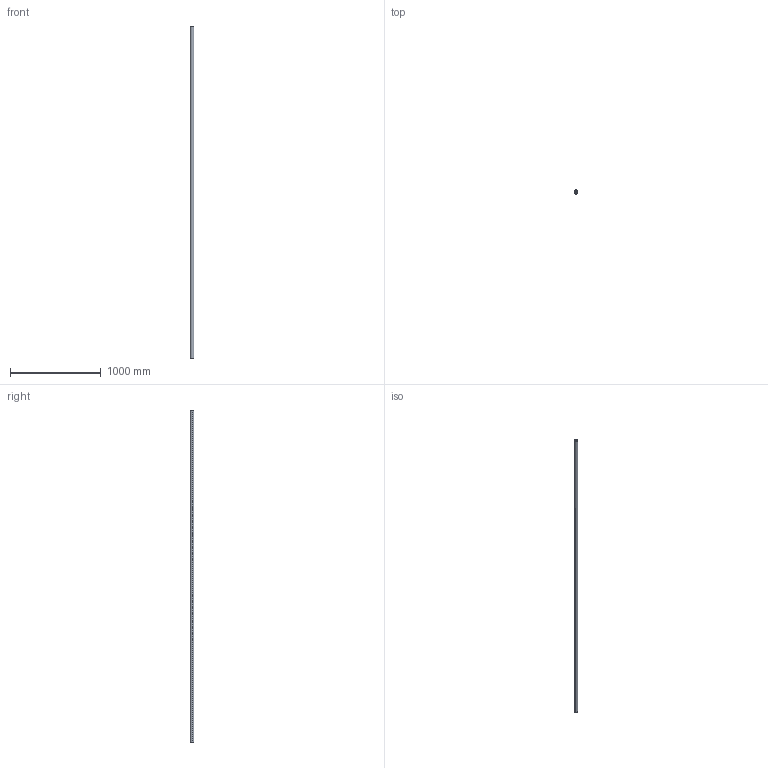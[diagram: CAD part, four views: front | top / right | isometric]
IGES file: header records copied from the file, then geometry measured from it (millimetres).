
Start section: SolidWorks IGES file using analytic representation for surfaces
Global section: file name: C:\Users\IanO\Desktop\L1771_v2\L1771.40_v2\L1771.40_v2_20230705_IGES\L1771.40-3650.igs; native system: SolidWorks 2019; preprocessor: SolidWorks 2019; author: IanO; date: 230705.162020; units: millimetre
Bounding box: 40 x 40 x 3650 mm (x, y, z)
Surface area: 781025.1 mm2 (no closed solid volume)
Topology: 0 solids, 0 shells, 6 faces, 272 edges, 272 vertices
Faces by surface type: revolution 4, bspline 2
